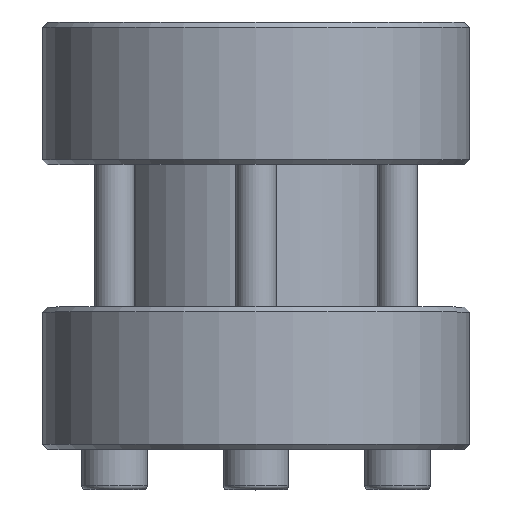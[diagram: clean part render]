
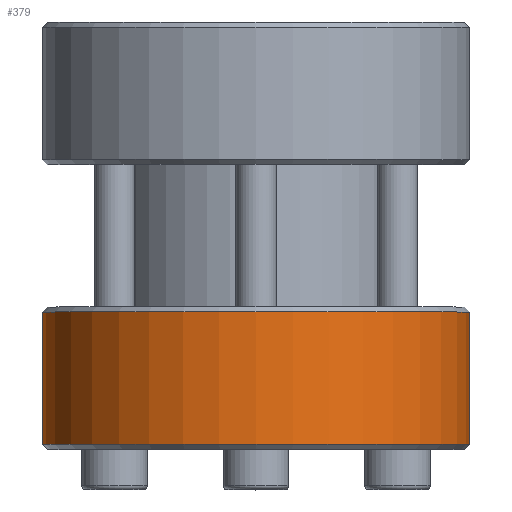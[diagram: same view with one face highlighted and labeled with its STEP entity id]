
A CAD part, top view. The second image highlights one B-rep face of the part: STEP entity #379.
In plain terms, the highlighted cylindrical face has radius 42.5 mm (diameter 85 mm), a full revolution.
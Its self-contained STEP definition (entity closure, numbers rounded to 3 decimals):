
#379 = ADVANCED_FACE( '', ( #623, #624 ), #625, .T. );
#623 = FACE_OUTER_BOUND( '', #793, .T. );
#624 = FACE_OUTER_BOUND( '', #794, .T. );
#625 = CYLINDRICAL_SURFACE( '', #795, 42.5 );
#793 = EDGE_LOOP( '', ( #1062 ) );
#794 = EDGE_LOOP( '', ( #1063 ) );
#795 = AXIS2_PLACEMENT_3D( '', #1064, #1065, #1066 );
#1062 = ORIENTED_EDGE( '', *, *, #1360, .T. );
#1063 = ORIENTED_EDGE( '', *, *, #1361, .T. );
#1064 = CARTESIAN_POINT( '', ( 0., -60., 0. ) );
#1065 = DIRECTION( '', ( 0., 1., 0. ) );
#1066 = DIRECTION( '', ( 0., 0., -1. ) );
#1360 = EDGE_CURVE( '', #1537, #1537, #1538, .T. );
#1361 = EDGE_CURVE( '', #1539, #1539, #1540, .T. );
#1537 = VERTEX_POINT( '', #1709 );
#1538 = CIRCLE( '', #1710, 42.5 );
#1539 = VERTEX_POINT( '', #1711 );
#1540 = CIRCLE( '', #1712, 42.5 );
#1709 = CARTESIAN_POINT( '', ( 0., 27.333, -42.5 ) );
#1710 = AXIS2_PLACEMENT_3D( '', #1841, #1842, #1843 );
#1711 = CARTESIAN_POINT( '', ( 0., 1., 42.5 ) );
#1712 = AXIS2_PLACEMENT_3D( '', #1844, #1845, #1846 );
#1841 = CARTESIAN_POINT( '', ( 0., 27.333, 0. ) );
#1842 = DIRECTION( '', ( 0., -1., 0. ) );
#1843 = DIRECTION( '', ( 0., 0., -1. ) );
#1844 = CARTESIAN_POINT( '', ( 0., 1., 0. ) );
#1845 = DIRECTION( '', ( 0., 1., 0. ) );
#1846 = DIRECTION( '', ( 0., 0., 1. ) );
